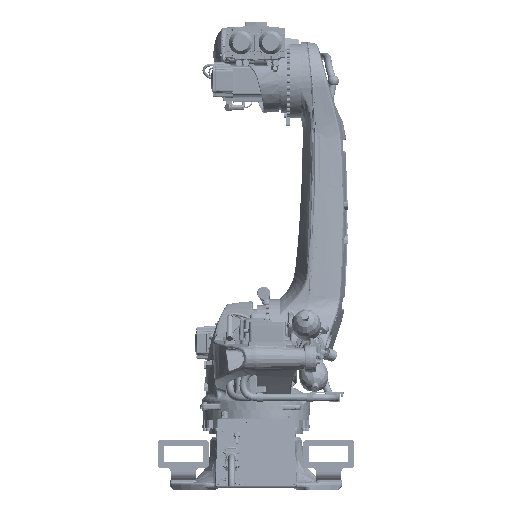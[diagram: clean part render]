
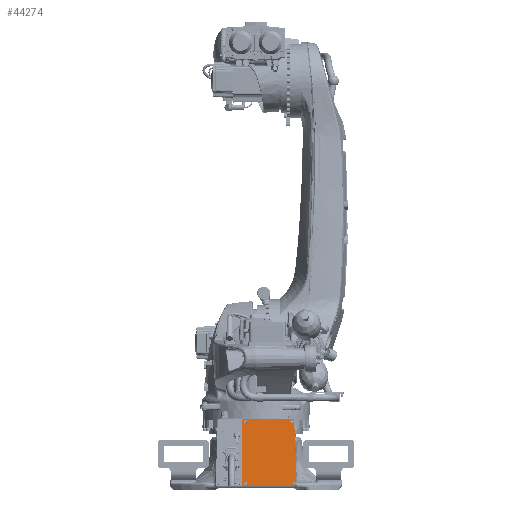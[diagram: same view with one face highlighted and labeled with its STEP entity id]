
A CAD part, left-side view. The second image highlights one B-rep face of the part: STEP entity #44274.
In plain terms, the highlighted planar face has unit normal (-0.996, 0, 0.087).
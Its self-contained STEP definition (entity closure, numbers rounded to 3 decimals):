
#23124=FACE_BOUND('',#68117,.T.);
#23125=FACE_BOUND('',#68118,.T.);
#23126=FACE_BOUND('',#68119,.T.);
#23127=FACE_BOUND('',#68120,.T.);
#23128=FACE_BOUND('',#68121,.T.);
#44274=ADVANCED_FACE('',(#23124,#23125,#23126,#23127,#23128),#52869,.F.);
#52869=PLANE('',#194844);
#68117=EDGE_LOOP('',(#90927));
#68118=EDGE_LOOP('',(#90928));
#68119=EDGE_LOOP('',(#90929));
#68120=EDGE_LOOP('',(#90930));
#68121=EDGE_LOOP('',(#90931,#90932,#90933,#90934,#90935,#90936,#90937));
#90927=ORIENTED_EDGE('',*,*,#148468,.T.);
#90928=ORIENTED_EDGE('',*,*,#148469,.T.);
#90929=ORIENTED_EDGE('',*,*,#148470,.T.);
#90930=ORIENTED_EDGE('',*,*,#148471,.T.);
#90931=ORIENTED_EDGE('',*,*,#148472,.F.);
#90932=ORIENTED_EDGE('',*,*,#148473,.F.);
#90933=ORIENTED_EDGE('',*,*,#148474,.T.);
#90934=ORIENTED_EDGE('',*,*,#148475,.F.);
#90935=ORIENTED_EDGE('',*,*,#148476,.T.);
#90936=ORIENTED_EDGE('',*,*,#148477,.F.);
#90937=ORIENTED_EDGE('',*,*,#148478,.T.);
#130526=VERTEX_POINT('',#316591);
#130527=VERTEX_POINT('',#316593);
#130528=VERTEX_POINT('',#316595);
#130529=VERTEX_POINT('',#316597);
#130530=VERTEX_POINT('',#316599);
#130531=VERTEX_POINT('',#316600);
#130532=VERTEX_POINT('',#316602);
#130533=VERTEX_POINT('',#316604);
#130534=VERTEX_POINT('',#316606);
#130535=VERTEX_POINT('',#316608);
#130536=VERTEX_POINT('',#316610);
#148468=EDGE_CURVE('',#130526,#130526,#168190,.T.);
#148469=EDGE_CURVE('',#130527,#130527,#168191,.T.);
#148470=EDGE_CURVE('',#130528,#130528,#168192,.T.);
#148471=EDGE_CURVE('',#130529,#130529,#168193,.T.);
#148472=EDGE_CURVE('',#130530,#130531,#178135,.T.);
#148473=EDGE_CURVE('',#130532,#130530,#178136,.T.);
#148474=EDGE_CURVE('',#130532,#130533,#168194,.T.);
#148475=EDGE_CURVE('',#130534,#130533,#178137,.T.);
#148476=EDGE_CURVE('',#130534,#130535,#168195,.T.);
#148477=EDGE_CURVE('',#130536,#130535,#178138,.T.);
#148478=EDGE_CURVE('',#130536,#130531,#168196,.T.);
#168190=CIRCLE('',#194837,7.);
#168191=CIRCLE('',#194838,7.);
#168192=CIRCLE('',#194839,7.);
#168193=CIRCLE('',#194840,7.);
#168194=CIRCLE('',#194841,5.);
#168195=CIRCLE('',#194842,5.);
#168196=CIRCLE('',#194843,5.);
#178135=LINE('',#316598,#184678);
#178136=LINE('',#316601,#184679);
#178137=LINE('',#316605,#184680);
#178138=LINE('',#316609,#184681);
#184678=VECTOR('',#217666,1.);
#184679=VECTOR('',#217667,1.);
#184680=VECTOR('',#217670,1.);
#184681=VECTOR('',#217673,1.);
#194837=AXIS2_PLACEMENT_3D('',#316590,#217658,#217659);
#194838=AXIS2_PLACEMENT_3D('',#316592,#217660,#217661);
#194839=AXIS2_PLACEMENT_3D('',#316594,#217662,#217663);
#194840=AXIS2_PLACEMENT_3D('',#316596,#217664,#217665);
#194841=AXIS2_PLACEMENT_3D('',#316603,#217668,#217669);
#194842=AXIS2_PLACEMENT_3D('',#316607,#217671,#217672);
#194843=AXIS2_PLACEMENT_3D('',#316611,#217674,#217675);
#194844=AXIS2_PLACEMENT_3D('',#316612,#217676,#217677);
#217658=DIRECTION('',(0.996,0.,-0.087));
#217659=DIRECTION('',(-0.087,0.,-0.996));
#217660=DIRECTION('',(0.996,0.,-0.087));
#217661=DIRECTION('',(-0.087,0.,-0.996));
#217662=DIRECTION('',(0.996,0.,-0.087));
#217663=DIRECTION('',(-0.087,0.,-0.996));
#217664=DIRECTION('',(0.996,0.,-0.087));
#217665=DIRECTION('',(-0.087,0.,-0.996));
#217666=DIRECTION('',(0.087,0.,0.996));
#217667=DIRECTION('',(0.,1.,0.));
#217668=DIRECTION('',(-0.996,0.,0.087));
#217669=DIRECTION('',(0.,1.,0.));
#217670=DIRECTION('',(-0.087,-0.035,-0.996));
#217671=DIRECTION('',(-0.996,0.,0.087));
#217672=DIRECTION('',(0.,1.,0.));
#217673=DIRECTION('',(0.,-1.,0.));
#217674=DIRECTION('',(-0.996,0.,0.087));
#217675=DIRECTION('',(0.,1.,0.));
#217676=DIRECTION('',(0.996,0.,-0.087));
#217677=DIRECTION('',(0.,1.,0.));
#316590=CARTESIAN_POINT('',(-481.948,45.,28.155));
#316591=CARTESIAN_POINT('',(-482.558,45.,21.182));
#316592=CARTESIAN_POINT('',(-481.948,-167.,28.155));
#316593=CARTESIAN_POINT('',(-482.558,-167.,21.182));
#316594=CARTESIAN_POINT('',(-458.242,45.,299.12));
#316595=CARTESIAN_POINT('',(-458.852,45.,292.147));
#316596=CARTESIAN_POINT('',(-458.242,-158.,299.12));
#316597=CARTESIAN_POINT('',(-458.852,-158.,292.147));
#316598=CARTESIAN_POINT('',(-482.994,60.,16.201));
#316599=CARTESIAN_POINT('',(-482.994,60.,16.201));
#316600=CARTESIAN_POINT('',(-457.719,60.,305.097));
#316601=CARTESIAN_POINT('',(-482.994,-177.802,16.201));
#316602=CARTESIAN_POINT('',(-482.994,-172.624,16.201));
#316603=CARTESIAN_POINT('',(-482.558,-172.624,21.182));
#316604=CARTESIAN_POINT('',(-482.543,-177.621,21.355));
#316605=CARTESIAN_POINT('',(-457.283,-167.5,310.078));
#316606=CARTESIAN_POINT('',(-457.704,-167.669,305.271));
#316607=CARTESIAN_POINT('',(-457.719,-162.672,305.097));
#316608=CARTESIAN_POINT('',(-457.283,-162.672,310.078));
#316609=CARTESIAN_POINT('',(-457.283,60.,310.078));
#316610=CARTESIAN_POINT('',(-457.283,55.,310.078));
#316611=CARTESIAN_POINT('',(-457.719,55.,305.097));
#316612=CARTESIAN_POINT('',(-482.994,60.,16.201));
